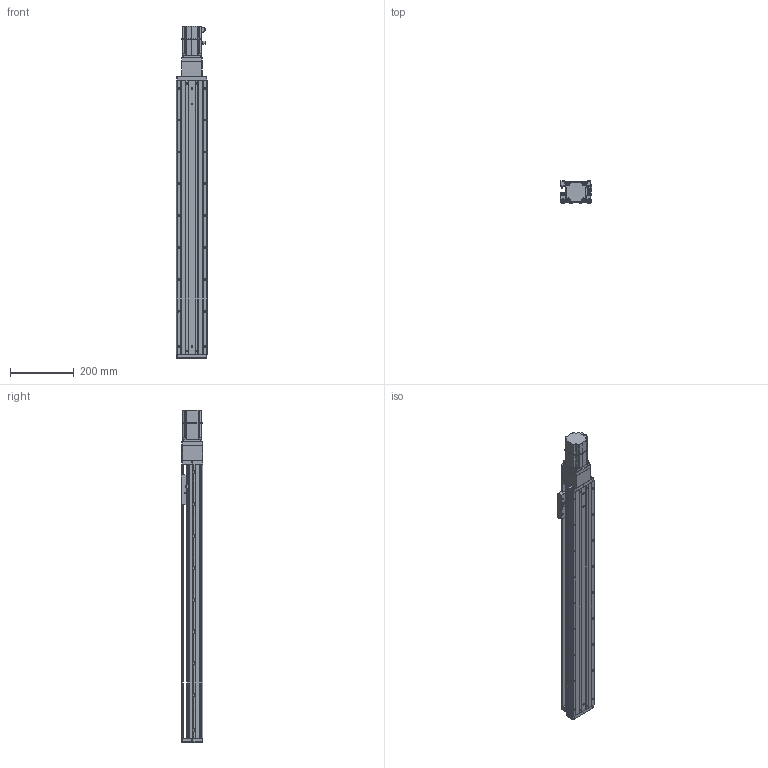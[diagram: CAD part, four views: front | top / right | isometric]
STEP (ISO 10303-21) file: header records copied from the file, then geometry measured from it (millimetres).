
FILE_DESCRIPTION (( 'STEP AP203' ), '1' );
FILE_NAME ('KTHA100-700-BC-M20-C4L.step', '2022-04-26T01:45:24', ( '微软用户' ), ( '微软中国' ), 'SwSTEP 2.0', 'SolidWorks 2020', '' );
FILE_SCHEMA (( 'CONFIG_CONTROL_DESIGN' ));
Length unit declared in the file: millimetre
Products named in the file (18): CTHA86-006-1_CTHA86-006-2; GB¨uT 70.2-M3¡Á5_M3¡Á6; GBT70.1 M5℅16; KTHA100-700-BC-M20-C4L; EE_SX911P_R; CTHA60-016; CTHA60-017; GBT 70.3-M3℅6; KTHA100-001_860; _X2_4E0983F1_X0_200W_1; KTHA100-002; CTHA60-021; CTHA86-013; KTHA100-004; GBT77-2000 M3×3; CTHA86-027; KTHA100-005; GBT 70.1-M3℅6
Assembly tree (56 placements, depth 2):
  KTHA100-700-BC-M20-C4L
    KTHA100-001_860
    KTHA100-002
    KTHA100-004
    KTHA100-005
    GB¨uT 70.2-M3¡Á5_M3¡Á6  x6
    EE_SX911P_R  x3
    CTHA60-017  x3
    CTHA60-021  x2
    GBT77-2000 M3×3  x6
    GBT 70.1-M3℅6  x6
    GBT70.1 M5℅16  x14
    CTHA60-016  x2
    GBT 70.3-M3℅6  x6
    _X2_4E0983F1_X0_200W_1
    CTHA86-013
    CTHA86-027
    CTHA86-006-1_CTHA86-006-2
Bounding box: 98.82 x 68 x 1042.5 mm (x, y, z)
Volume: 3882140.8 mm3; surface area: 646342.6 mm2
Topology: 59 solids, 59 shells, 2427 faces, 5800 edges, 3580 vertices
Faces by surface type: plane 1239, cylinder 667, cone 332, torus 104, bspline 69, sphere 16
Entity records: 42244 total; most frequent: CARTESIAN_POINT 8087, DIRECTION 6659, ORIENTED_EDGE 6368, EDGE_CURVE 3184, AXIS2_PLACEMENT_3D 2324, LINE 2011, VECTOR 2011, VERTEX_POINT 1998
